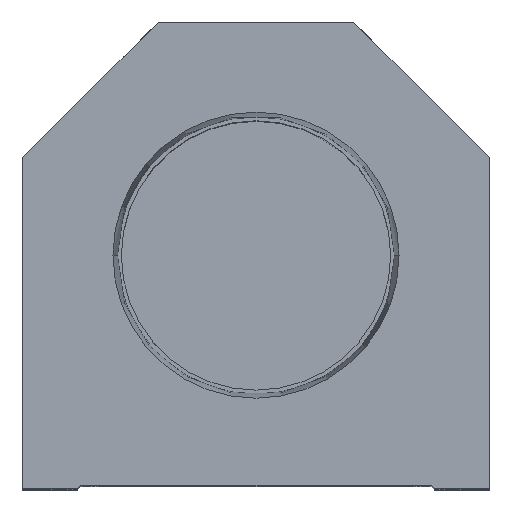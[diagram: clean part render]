
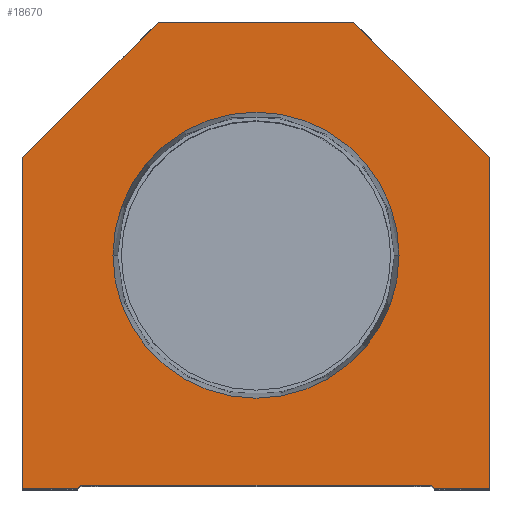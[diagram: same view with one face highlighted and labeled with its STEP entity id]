
A CAD part, top view. The second image highlights one B-rep face of the part: STEP entity #18670.
In plain terms, the highlighted planar face has unit normal (0, 0, 1).
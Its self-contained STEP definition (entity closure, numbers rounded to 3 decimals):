
#11 = EDGE_CURVE ( 'NONE', #13574, #15275, #20303, .T. ) ;
#68 = VECTOR ( 'NONE', #19303, 1000. ) ;
#326 = CARTESIAN_POINT ( 'NONE',  ( 0., 38.1, 0. ) ) ;
#438 = DIRECTION ( 'NONE',  ( 0., 0., 1. ) ) ;
#499 = LINE ( 'NONE', #6961, #20595 ) ;
#1224 = ORIENTED_EDGE ( 'NONE', *, *, #19985, .T. ) ;
#1406 = VECTOR ( 'NONE', #17737, 1000. ) ;
#1530 = ORIENTED_EDGE ( 'NONE', *, *, #11, .F. ) ;
#2577 = CARTESIAN_POINT ( 'NONE',  ( 0., 38.1, 0. ) ) ;
#2657 = DIRECTION ( 'NONE',  ( 1., 0., 0. ) ) ;
#2663 = VERTEX_POINT ( 'NONE', #12145 ) ;
#2782 = VECTOR ( 'NONE', #7655, 1000. ) ;
#2878 = DIRECTION ( 'NONE',  ( 0., 1., 0. ) ) ;
#2922 = CARTESIAN_POINT ( 'NONE',  ( 14.55, 14.55, 0. ) ) ;
#3694 = ORIENTED_EDGE ( 'NONE', *, *, #3831, .T. ) ;
#3831 = EDGE_CURVE ( 'NONE', #2663, #20126, #499, .T. ) ;
#3833 = VECTOR ( 'NONE', #2657, 1000. ) ;
#4421 = ORIENTED_EDGE ( 'NONE', *, *, #7198, .T. ) ;
#4443 = LINE ( 'NONE', #11315, #1406 ) ;
#4772 = ORIENTED_EDGE ( 'NONE', *, *, #20785, .T. ) ;
#4866 = AXIS2_PLACEMENT_3D ( 'NONE', #2577, #11873, #15361 ) ;
#5464 = DIRECTION ( 'NONE',  ( -1., 0., 0. ) ) ;
#6198 = FACE_BOUND ( 'NONE', #8983, .T. ) ;
#6350 = LINE ( 'NONE', #14402, #14006 ) ;
#6457 = EDGE_CURVE ( 'NONE', #6792, #8674, #4443, .T. ) ;
#6714 = CARTESIAN_POINT ( 'NONE',  ( 38.1, 54.1, 0. ) ) ;
#6792 = VERTEX_POINT ( 'NONE', #16921 ) ;
#6961 = CARTESIAN_POINT ( 'NONE',  ( 16., 76.2, 0. ) ) ;
#7059 = CARTESIAN_POINT ( 'NONE',  ( 28.6, 0., 0. ) ) ;
#7198 = EDGE_CURVE ( 'NONE', #15145, #16232, #20816, .T. ) ;
#7298 = ORIENTED_EDGE ( 'NONE', *, *, #20920, .T. ) ;
#7478 = AXIS2_PLACEMENT_3D ( 'NONE', #326, #438, #19373 ) ;
#7655 = DIRECTION ( 'NONE',  ( 1., 0., 0. ) ) ;
#8168 = VECTOR ( 'NONE', #9034, 1000. ) ;
#8674 = VERTEX_POINT ( 'NONE', #16724 ) ;
#8683 = EDGE_CURVE ( 'NONE', #15275, #13574, #12965, .T. ) ;
#8983 = EDGE_LOOP ( 'NONE', ( #1530, #17743 ) ) ;
#9034 = DIRECTION ( 'NONE',  ( -0.707, -0.707, 0. ) ) ;
#9418 = CARTESIAN_POINT ( 'NONE',  ( 29.1, 0., 0. ) ) ;
#10372 = VECTOR ( 'NONE', #14338, 1000. ) ;
#10549 = VECTOR ( 'NONE', #15614, 1000. ) ;
#10698 = LINE ( 'NONE', #17105, #3833 ) ;
#10718 = ORIENTED_EDGE ( 'NONE', *, *, #10914, .T. ) ;
#10864 = CARTESIAN_POINT ( 'NONE',  ( 0., 0., 0. ) ) ;
#10914 = EDGE_CURVE ( 'NONE', #16232, #6792, #15770, .T. ) ;
#11315 = CARTESIAN_POINT ( 'NONE',  ( -14.55, 14.55, 0. ) ) ;
#11873 = DIRECTION ( 'NONE',  ( 0., 0., 1. ) ) ;
#11889 = ORIENTED_EDGE ( 'NONE', *, *, #6457, .T. ) ;
#11910 = LINE ( 'NONE', #7059, #11944 ) ;
#11944 = VECTOR ( 'NONE', #13476, 1000. ) ;
#11967 = EDGE_CURVE ( 'NONE', #15789, #16752, #11910, .T. ) ;
#12006 = CARTESIAN_POINT ( 'NONE',  ( -38.1, 54.1, 0. ) ) ;
#12061 = VERTEX_POINT ( 'NONE', #13172 ) ;
#12145 = CARTESIAN_POINT ( 'NONE',  ( 16., 76.2, 0. ) ) ;
#12238 = CARTESIAN_POINT ( 'NONE',  ( -38.1, 0., 0. ) ) ;
#12513 = CARTESIAN_POINT ( 'NONE',  ( 23.374, 38.1, 0. ) ) ;
#12598 = EDGE_CURVE ( 'NONE', #8674, #12061, #10698, .T. ) ;
#12647 = LINE ( 'NONE', #15598, #68 ) ;
#12965 = CIRCLE ( 'NONE', #4866, 23.374 ) ;
#13172 = CARTESIAN_POINT ( 'NONE',  ( 28.6, 0.5, 0. ) ) ;
#13292 = ORIENTED_EDGE ( 'NONE', *, *, #14452, .T. ) ;
#13476 = DIRECTION ( 'NONE',  ( 1., 0., 0. ) ) ;
#13574 = VERTEX_POINT ( 'NONE', #12513 ) ;
#14006 = VECTOR ( 'NONE', #2878, 1000. ) ;
#14173 = CARTESIAN_POINT ( 'NONE',  ( 38.1, 0., 0. ) ) ;
#14181 = CARTESIAN_POINT ( 'NONE',  ( -28.6, 0., 0. ) ) ;
#14219 = LINE ( 'NONE', #2922, #10372 ) ;
#14338 = DIRECTION ( 'NONE',  ( 0.707, -0.707, 0. ) ) ;
#14351 = DIRECTION ( 'NONE',  ( 1., 0., 0. ) ) ;
#14402 = CARTESIAN_POINT ( 'NONE',  ( 38.1, 0., 0. ) ) ;
#14429 = CARTESIAN_POINT ( 'NONE',  ( -23.374, 38.1, 0. ) ) ;
#14452 = EDGE_CURVE ( 'NONE', #16752, #15161, #6350, .T. ) ;
#14847 = CARTESIAN_POINT ( 'NONE',  ( -16., 76.2, 0. ) ) ;
#15145 = VERTEX_POINT ( 'NONE', #17475 ) ;
#15161 = VERTEX_POINT ( 'NONE', #6714 ) ;
#15258 = LINE ( 'NONE', #12006, #8168 ) ;
#15275 = VERTEX_POINT ( 'NONE', #14429 ) ;
#15361 = DIRECTION ( 'NONE',  ( 1., 0., 0. ) ) ;
#15598 = CARTESIAN_POINT ( 'NONE',  ( 38.1, 54.1, 0. ) ) ;
#15614 = DIRECTION ( 'NONE',  ( 0., -1., 0. ) ) ;
#15725 = FACE_OUTER_BOUND ( 'NONE', #19762, .T. ) ;
#15770 = LINE ( 'NONE', #14181, #2782 ) ;
#15789 = VERTEX_POINT ( 'NONE', #9418 ) ;
#16232 = VERTEX_POINT ( 'NONE', #18591 ) ;
#16362 = AXIS2_PLACEMENT_3D ( 'NONE', #10864, #20496, #14351 ) ;
#16724 = CARTESIAN_POINT ( 'NONE',  ( -28.6, 0.5, 0. ) ) ;
#16752 = VERTEX_POINT ( 'NONE', #14173 ) ;
#16885 = ORIENTED_EDGE ( 'NONE', *, *, #12598, .T. ) ;
#16921 = CARTESIAN_POINT ( 'NONE',  ( -29.1, 0., 0. ) ) ;
#17105 = CARTESIAN_POINT ( 'NONE',  ( -28.6, 0.5, 0. ) ) ;
#17386 = PLANE ( 'NONE',  #16362 ) ;
#17475 = CARTESIAN_POINT ( 'NONE',  ( -38.1, 54.1, 0. ) ) ;
#17737 = DIRECTION ( 'NONE',  ( 0.707, 0.707, 0. ) ) ;
#17743 = ORIENTED_EDGE ( 'NONE', *, *, #8683, .F. ) ;
#18591 = CARTESIAN_POINT ( 'NONE',  ( -38.1, 0., 0. ) ) ;
#18670 = ADVANCED_FACE ( 'NONE', ( #6198, #15725 ), #17386, .T. ) ;
#19303 = DIRECTION ( 'NONE',  ( -0.707, 0.707, 0. ) ) ;
#19373 = DIRECTION ( 'NONE',  ( 1., 0., 0. ) ) ;
#19762 = EDGE_LOOP ( 'NONE', ( #10718, #11889, #16885, #1224, #20316, #13292, #4772, #3694, #7298, #4421 ) ) ;
#19985 = EDGE_CURVE ( 'NONE', #12061, #15789, #14219, .T. ) ;
#20126 = VERTEX_POINT ( 'NONE', #14847 ) ;
#20303 = CIRCLE ( 'NONE', #7478, 23.374 ) ;
#20316 = ORIENTED_EDGE ( 'NONE', *, *, #11967, .T. ) ;
#20496 = DIRECTION ( 'NONE',  ( 0., 0., 1. ) ) ;
#20595 = VECTOR ( 'NONE', #5464, 1000. ) ;
#20785 = EDGE_CURVE ( 'NONE', #15161, #2663, #12647, .T. ) ;
#20816 = LINE ( 'NONE', #12238, #10549 ) ;
#20920 = EDGE_CURVE ( 'NONE', #20126, #15145, #15258, .T. ) ;
